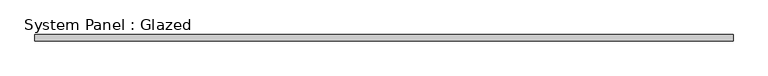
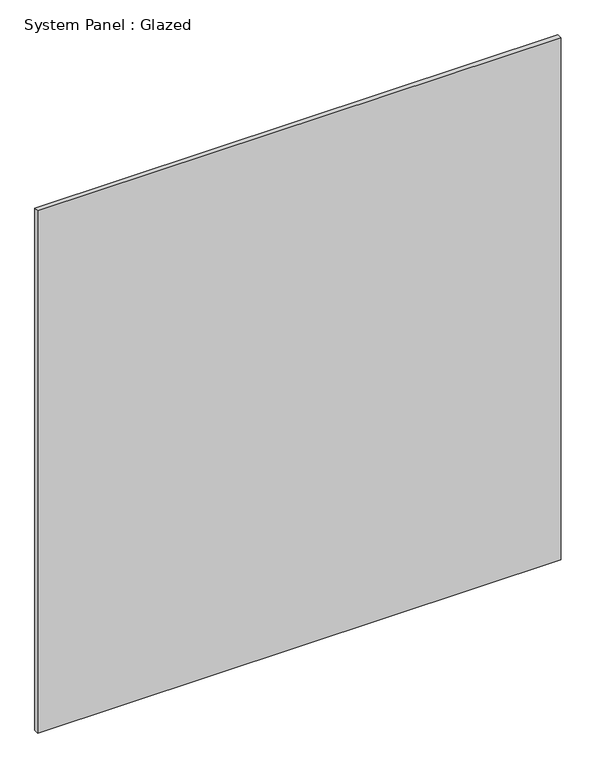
"""IFC4 building model written with IfcOpenShell, lengths in millimetres: plate geometry, System Panel : Glazed."""

import ifcopenshell
import ifcopenshell.guid

model = None  # the IFC model being written
_history = None  # IfcOwnerHistory: only IFC2X3 demands one
_inside = {}  # id of a spatial element -> (the spatial element, [elements in it])
_under = {}  # id of a project, library or spatial element -> (it, [spatial elements below it])
_declared = {}  # id of a project -> (the project, [libraries it declares])
_typed = {}  # id of a type object -> (the type object, [elements of that type])
_made_of = {}  # id of a material, layer set ... -> (it, [elements and type objects made of it])


def new_model(schema):
    """Start an empty IFC model of exactly this schema.

    Asked for "IFC4X3", IfcOpenShell would pick the latest addendum, in which some entities
    have other attributes; the version numbers below select the first issue.
    IFC2X3 requires an IfcOwnerHistory on every rooted entity: one is made here for all.
    """
    global model, _history
    if schema == "IFC4X3":
        model = ifcopenshell.file(schema_version=(4, 3, 0, 0))
    else:
        model = ifcopenshell.file(schema=schema)
    _inside.clear()
    _under.clear()
    _declared.clear()
    _typed.clear()
    _made_of.clear()
    _history = None
    if model.schema == "IFC2X3":
        org = make("IfcOrganization", Name="unknown")
        user = make(
            "IfcPersonAndOrganization",
            ThePerson=make("IfcPerson", FamilyName="unknown"),
            TheOrganization=org,
        )
        app = make(
            "IfcApplication",
            ApplicationDeveloper=org,
            Version="unknown",
            ApplicationFullName="unknown",
            ApplicationIdentifier="unknown",
        )
        _history = make(
            "IfcOwnerHistory",
            OwningUser=user,
            OwningApplication=app,
            ChangeAction="ADDED",
            CreationDate=0,
        )
    return model


def make(cls, **values):
    """One entity of the class cls with the attributes given. An attribute that is None is left unset."""
    return model.create_entity(
        cls, **{name: value for name, value in values.items() if value is not None}
    )


def rooted(cls, **values):
    """An entity with a GlobalId (a new one), such as an element, a storey or a relation."""
    return make(cls, GlobalId=ifcopenshell.guid.new(), OwnerHistory=_history, **values)


def si_unit(unit_type, name, prefix=None):
    """IfcSIUnit, for example si_unit("LENGTHUNIT", "METRE", prefix="MILLI")."""
    return make("IfcSIUnit", UnitType=unit_type, Prefix=prefix, Name=name)


def assignment(units):
    """IfcUnitAssignment: the units of a project."""
    return None if units is None else make("IfcUnitAssignment", Units=units)


def point(xyz):
    """IfcCartesianPoint."""
    return None if xyz is None else make("IfcCartesianPoint", Coordinates=xyz)


def direction(xyz):
    """IfcDirection."""
    return None if xyz is None else make("IfcDirection", DirectionRatios=xyz)


def frame(location, z_axis=None, x_axis=None):
    """IfcAxis2Placement3D, a coordinate frame: its origin and axes. An axis left out is left unset."""
    return make(
        "IfcAxis2Placement3D",
        Location=point(location),
        Axis=direction(z_axis),
        RefDirection=direction(x_axis),
    )


def origin():
    """The frame at (0, 0, 0) with its axes left unset."""
    return frame((0.0, 0.0, 0.0))


def origin_with_axes():
    """The frame at (0, 0, 0) with the z axis (0, 0, 1) and the x axis (1, 0, 0) written out."""
    return frame((0.0, 0.0, 0.0), z_axis=(0.0, 0.0, 1.0), x_axis=(1.0, 0.0, 0.0))


def place(relative_to, where):
    """IfcLocalPlacement: puts the frame where relative to a parent placement (None: the world)."""
    return make(
        "IfcLocalPlacement", PlacementRelTo=relative_to, RelativePlacement=where
    )


def context(
    kind, dimensions, precision=None, world=None, true_north=None, identifier=None
):
    """IfcGeometricRepresentationContext, for example the 3D "Model" context."""
    return make(
        "IfcGeometricRepresentationContext",
        ContextIdentifier=identifier,
        ContextType=kind,
        CoordinateSpaceDimension=dimensions,
        Precision=precision,
        WorldCoordinateSystem=world,
        TrueNorth=true_north,
    )


def project(units=None, contexts=None):
    """IfcProject with its units and contexts."""
    return rooted(
        "IfcProject",
        Name="project",
        RepresentationContexts=contexts,
        UnitsInContext=assignment(units),
    )


def spatial(cls, under=None, at=None, **own):
    """A site, building, storey or space (cls), placed at a placement, below another one or the project."""
    s = rooted(cls, ObjectPlacement=at, **own)
    if under is not None:
        _under.setdefault(under.id(), (under, []))[1].append(s)
    return s


def polyline(points):
    """IfcPolyline through the points."""
    return make("IfcPolyline", Points=[point(p) for p in points])


def outline(outer, holes=None, kind="AREA"):
    """IfcArbitraryClosedProfileDef: a profile drawn as a closed curve; with holes, ...WithVoids."""
    if holes is None:
        return make("IfcArbitraryClosedProfileDef", ProfileType=kind, OuterCurve=outer)
    return make(
        "IfcArbitraryProfileDefWithVoids",
        ProfileType=kind,
        OuterCurve=outer,
        InnerCurves=holes,
    )


def extrude(swept, where, along, depth):
    """IfcExtrudedAreaSolid: the profile swept, set in the frame where, extruded along a direction by depth."""
    return make(
        "IfcExtrudedAreaSolid",
        SweptArea=swept,
        Position=where,
        ExtrudedDirection=direction(along),
        Depth=depth,
    )


def shape(context_of_items, identifier, shape_type, items):
    """IfcShapeRepresentation: the items that make up one representation, for example the "Body"."""
    return make(
        "IfcShapeRepresentation",
        ContextOfItems=context_of_items,
        RepresentationIdentifier=identifier,
        RepresentationType=shape_type,
        Items=items,
    )


def source(mapping_origin, context_of_items, identifier, shape_type, items):
    """IfcRepresentationMap: a shape defined once, which mapped items show again and again."""
    return make(
        "IfcRepresentationMap",
        MappingOrigin=mapping_origin,
        MappedRepresentation=shape(context_of_items, identifier, shape_type, items),
    )


def transform(
    local_origin,
    x_axis=None,
    y_axis=None,
    z_axis=None,
    scale=None,
    scale2=None,
    scale3=None,
    uniform=True,
):
    """IfcCartesianTransformationOperator3D, or its non-uniform kind. x_axis, y_axis, z_axis: its Axis1, 2, 3."""
    if uniform:
        return make(
            "IfcCartesianTransformationOperator3D",
            Axis1=direction(x_axis),
            Axis2=direction(y_axis),
            LocalOrigin=point(local_origin),
            Scale=scale,
            Axis3=direction(z_axis),
        )
    return make(
        "IfcCartesianTransformationOperator3DnonUniform",
        Axis1=direction(x_axis),
        Axis2=direction(y_axis),
        LocalOrigin=point(local_origin),
        Scale=scale,
        Axis3=direction(z_axis),
        Scale2=scale2,
        Scale3=scale3,
    )


def mapped(mapping_source, mapping_target):
    """IfcMappedItem: shows the shape of a source again, moved by a transform."""
    return make(
        "IfcMappedItem", MappingSource=mapping_source, MappingTarget=mapping_target
    )


def made_of(thing, what):
    """Note that an element or type object is made of a material, layer set ...; save() writes the relation."""
    if what is not None:
        _made_of.setdefault(what.id(), (what, []))[1].append(thing)
    return thing


def element(
    cls,
    number,
    at=None,
    inside=None,
    cuts=None,
    type_object=None,
    material=None,
    context=None,
    identifier="Body",
    shape_type=None,
    held_by="IfcProductDefinitionShape",
    body=None,
    shapes=None,
    **own,
):
    """One element of the class cls, such as IfcWall. Its Tag is "e" and its number.

    at: its placement. inside: the storey or other place that contains it. cuts: it is an
    opening in that element (IfcRelVoidsElement). A single representation is given by context,
    identifier, shape_type and body (its items); several are given by shapes. held_by: the class
    of the entity that holds the representations. save() writes the other relations.
    """
    e = rooted(cls, Tag="e%d" % number, ObjectPlacement=at, **own)
    if body is not None:
        shapes = [shape(context, identifier, shape_type, body)]
    if shapes is not None:
        e.Representation = make(held_by, Representations=shapes)
    if inside is not None:
        _inside.setdefault(inside.id(), (inside, []))[1].append(e)
    if cuts is not None:
        rooted(
            "IfcRelVoidsElement", RelatingBuildingElement=cuts, RelatedOpeningElement=e
        )
    if type_object is not None:
        _typed.setdefault(type_object.id(), (type_object, []))[1].append(e)
    return made_of(e, material)


def aggregate(whole, parts):
    """IfcRelAggregates: a whole, such as a stair, and the parts it consists of."""
    return rooted("IfcRelAggregates", RelatingObject=whole, RelatedObjects=parts)


def save(model, path):
    """Write the relations noted so far, then the file.

    IfcRelAggregates (storeys below a building ...), IfcRelContainedInSpatialStructure (elements
    in a storey), IfcRelDefinesByType, IfcRelAssociatesMaterial and IfcRelDeclares: one each for
    every whole, place, type object, material and project.
    """
    for whole, parts in _under.values():
        aggregate(whole, parts)
    for where, things in _inside.values():
        rooted(
            "IfcRelContainedInSpatialStructure",
            RelatedElements=things,
            RelatingStructure=where,
        )
    for kind, things in _typed.values():
        rooted("IfcRelDefinesByType", RelatedObjects=things, RelatingType=kind)
    for what, things in _made_of.values():
        rooted("IfcRelAssociatesMaterial", RelatedObjects=things, RelatingMaterial=what)
    for by, libraries in _declared.values():
        rooted("IfcRelDeclares", RelatingContext=by, RelatedDefinitions=libraries)
    model.write(path)


def system_panel_glazed_d3fe5688(model_context):
    return source(origin(), model_context, "Body", "SweptSolid", [
        extrude(outline(polyline([(1400.175, -44.45), (-1400.175, -44.45), (-1400.175, -19.05), (1400.175, -19.05), (1400.175, -44.45)])), origin_with_axes(), (0.0, 0.0, 1.0), 2952.75),
    ])


if __name__ == "__main__":
    model = new_model("IFC4")
    model_context = context("Model", 3, world=origin())
    ifc_project = project(units=[si_unit("LENGTHUNIT", "METRE", prefix="MILLI")], contexts=[model_context])
    site = spatial("IfcSite", under=ifc_project)
    building = spatial("IfcBuilding", under=site)
    placement = place(None, origin())
    system_panel_glazed_shape = system_panel_glazed_d3fe5688(model_context)
    element("IfcPlate", 1, ObjectType="System Panel : Glazed", at=placement, inside=building, context=model_context, shape_type="MappedRepresentation", body=[
        mapped(system_panel_glazed_shape, transform((0.0, 0.0, 0.0), x_axis=(1.0, 0.0, 0.0), y_axis=(0.0, 1.0, 0.0), z_axis=(0.0, 0.0, 1.0))),
    ])
    save(model, "model.ifc")
